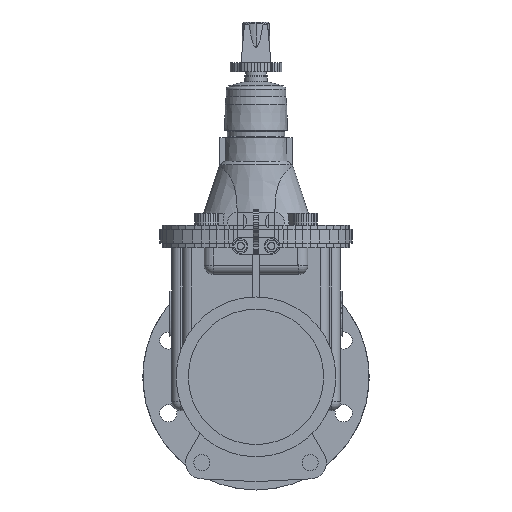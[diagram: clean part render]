
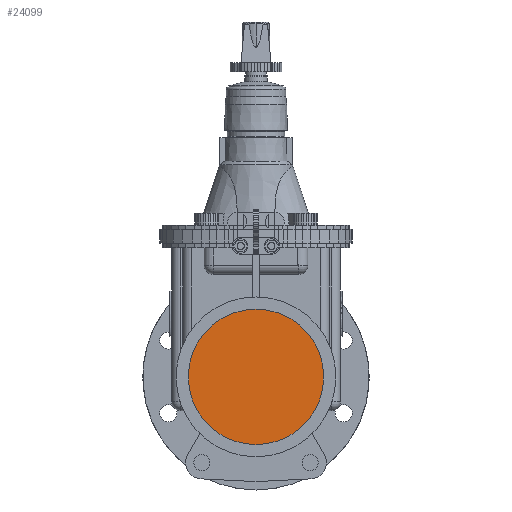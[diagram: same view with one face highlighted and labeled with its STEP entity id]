
A CAD part, left-side view. The second image highlights one B-rep face of the part: STEP entity #24099.
In plain terms, the highlighted planar face has unit normal (-1, 0, 0).
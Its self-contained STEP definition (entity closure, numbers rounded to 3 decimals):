
#9997=VERTEX_POINT('',#27934);
#12195=EDGE_CURVE('',#9997,#18675,#30348,.T.);
#18675=VERTEX_POINT('',#37417);
#24099=ADVANCED_FACE('',(#43353),#43354,.T.);
#26193=EDGE_CURVE('',#18675,#9997,#45639,.T.);
#27934=CARTESIAN_POINT('',(-79.8,0.0,-75.0));
#30348=CIRCLE('',#51691,75.0);
#37417=CARTESIAN_POINT('',(-79.8,0.,75.0));
#43353=FACE_OUTER_BOUND('',#71466,.T.);
#43354=PLANE('',#71467);
#45639=CIRCLE('',#74794,75.0);
#51691=AXIS2_PLACEMENT_3D('',#79517,#79518,#79519);
#71466=EDGE_LOOP('',(#93308,#93309));
#71467=AXIS2_PLACEMENT_3D('',#93310,#93311,#93312);
#74794=AXIS2_PLACEMENT_3D('',#95529,#95530,#95531);
#79517=CARTESIAN_POINT('',(-79.8,0.0,0.0));
#79518=DIRECTION('',(-1.0,0.0,0.0));
#79519=DIRECTION('',(0.0,0.0,-1.0));
#93308=ORIENTED_EDGE('',*,*,#12195,.T.);
#93309=ORIENTED_EDGE('',*,*,#26193,.T.);
#93310=CARTESIAN_POINT('',(-79.8,0.0,0.0));
#93311=DIRECTION('',(-1.0,0.0,0.0));
#93312=DIRECTION('',(0.0,0.0,-1.0));
#95529=CARTESIAN_POINT('',(-79.8,0.0,0.0));
#95530=DIRECTION('',(-1.0,0.0,0.0));
#95531=DIRECTION('',(0.0,0.0,-1.0));
